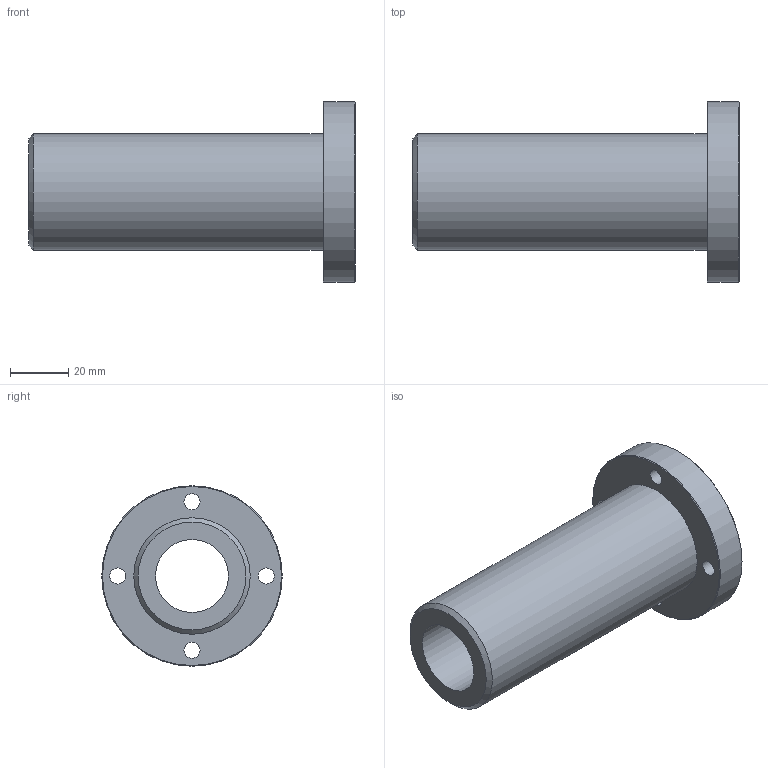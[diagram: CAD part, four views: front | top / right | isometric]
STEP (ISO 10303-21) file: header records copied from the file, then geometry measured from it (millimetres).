
FILE_DESCRIPTION(('STEP AP203'),'1');
FILE_NAME('//192.168.1.1/share/s-4 技術開発/s-4-4_CAD/s-4-4-3_見直し済み/PBC LINEAR修正済み/DFPJ/DFPJ_TOP/DFPJR/DFPJR25.step','2022-03-24T05:37:45',(' '),(' '),'Spatial InterOp 3D',' ',' ');
FILE_SCHEMA(('CONFIG_CONTROL_DESIGN'));
Length unit declared in the file: millimetre
Products named in the file (1): 1
Bounding box: 112 x 62 x 62 mm (x, y, z)
Volume: 103143.4 mm3; surface area: 29310.5 mm2
Topology: 1 solids, 1 shells, 21 faces, 44 edges, 30 vertices
Faces by surface type: cylinder 11, plane 7, cone 3
Full cylindrical faces by diameter (mm): 5.5 x4, 9 x4, 25 x1, 40 x1, 62 x1
Entity records: 528 total; most frequent: DIRECTION 94, CARTESIAN_POINT 72, EDGE_LOOP 50, ORIENTED_EDGE 50, AXIS2_PLACEMENT_3D 47, FACE_OUTER_BOUND 32, EDGE_CURVE 25, VERTEX_POINT 25
